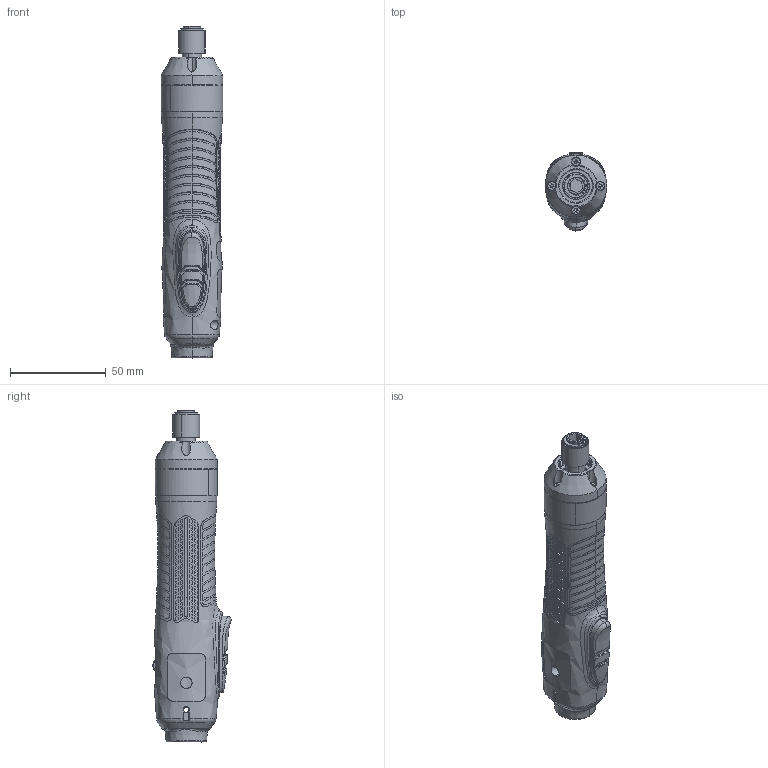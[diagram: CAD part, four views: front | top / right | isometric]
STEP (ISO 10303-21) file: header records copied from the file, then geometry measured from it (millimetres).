
FILE_DESCRIPTION (( 'STEP AP203' ), '1' );
FILE_NAME ('EXT-MD2203-A.STEP', '2024-01-08T04:59:25', ( '' ), ( '' ), 'SwSTEP 2.0', 'SolidWorks 2021', '' );
FILE_SCHEMA (( 'CONFIG_CONTROL_DESIGN' ));
Products named in the file (1): EXT-MD2203-A
Bounding box: 32.17 x 40.76 x 173.08 mm (x, y, z)
Surface area: 23536.6 mm2 (no closed solid volume)
Topology: 0 solids, 23 shells, 1381 faces, 3804 edges, 2576 vertices
Faces by surface type: plane 834, bspline 349, cylinder 155, cone 22, torus 21
Entity records: 117501 total; most frequent: CARTESIAN_POINT 91411, ORIENTED_EDGE 7041, EDGE_CURVE 3804, B_SPLINE_CURVE_WITH_KNOTS 3688, VERTEX_POINT 2576, DIRECTION 2066, EDGE_LOOP 1558, ADVANCED_FACE 1381
